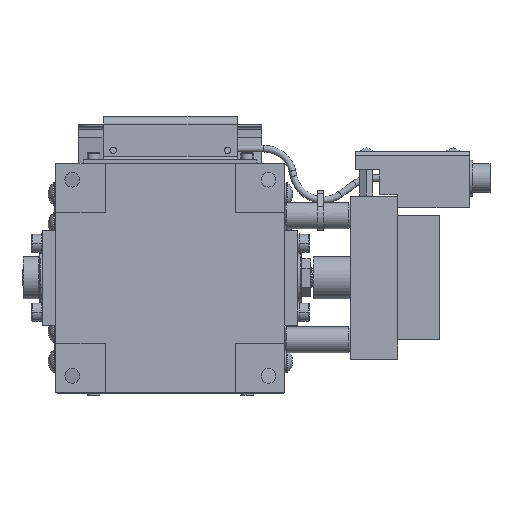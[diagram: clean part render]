
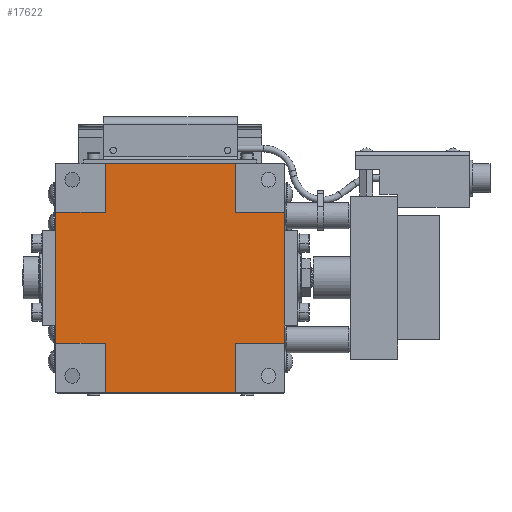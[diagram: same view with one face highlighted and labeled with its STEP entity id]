
A CAD part, front view. The second image highlights one B-rep face of the part: STEP entity #17622.
In plain terms, the highlighted planar face has unit normal (0, -1, 0).
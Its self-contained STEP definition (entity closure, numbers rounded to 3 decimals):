
#521 = AXIS2_PLACEMENT_3D ( 'NONE', #17364, #32119, #11664 ) ;
#616 = VECTOR ( 'NONE', #24910, 1000. ) ;
#703 = EDGE_CURVE ( 'NONE', #23028, #15112, #33004, .T. ) ;
#1456 = CARTESIAN_POINT ( 'NONE',  ( -35., 0.3, 20. ) ) ;
#2079 = ORIENTED_EDGE ( 'NONE', *, *, #22313, .T. ) ;
#2129 = VECTOR ( 'NONE', #24999, 1000. ) ;
#2689 = DIRECTION ( 'NONE',  ( 0., 0., -1. ) ) ;
#2851 = CARTESIAN_POINT ( 'NONE',  ( 20., 0.3, -20. ) ) ;
#2980 = VECTOR ( 'NONE', #8788, 1000. ) ;
#3044 = CARTESIAN_POINT ( 'NONE',  ( -20., 0.3, 20. ) ) ;
#3186 = ORIENTED_EDGE ( 'NONE', *, *, #29172, .T. ) ;
#3345 = CARTESIAN_POINT ( 'NONE',  ( -20., 0.3, 20. ) ) ;
#3568 = ORIENTED_EDGE ( 'NONE', *, *, #703, .T. ) ;
#3866 = DIRECTION ( 'NONE',  ( 1., 0., 0. ) ) ;
#4145 = ORIENTED_EDGE ( 'NONE', *, *, #7848, .T. ) ;
#4366 = CARTESIAN_POINT ( 'NONE',  ( 35., 0.3, 20. ) ) ;
#4445 = CARTESIAN_POINT ( 'NONE',  ( 20., 0.3, -35. ) ) ;
#4475 = CARTESIAN_POINT ( 'NONE',  ( -20., 0.3, -35. ) ) ;
#5139 = ORIENTED_EDGE ( 'NONE', *, *, #29295, .T. ) ;
#5180 = DIRECTION ( 'NONE',  ( 0., 0., 1. ) ) ;
#5891 = ORIENTED_EDGE ( 'NONE', *, *, #12065, .T. ) ;
#6394 = VECTOR ( 'NONE', #12539, 1000. ) ;
#7300 = LINE ( 'NONE', #35682, #6394 ) ;
#7423 = CARTESIAN_POINT ( 'NONE',  ( 35., 0.3, 20. ) ) ;
#7848 = EDGE_CURVE ( 'NONE', #34871, #8144, #22817, .T. ) ;
#8144 = VERTEX_POINT ( 'NONE', #32753 ) ;
#8466 = EDGE_CURVE ( 'NONE', #25946, #11051, #25051, .T. ) ;
#8788 = DIRECTION ( 'NONE',  ( 0., 0., -1. ) ) ;
#10032 = CARTESIAN_POINT ( 'NONE',  ( -35., 0.3, -20. ) ) ;
#10046 = VERTEX_POINT ( 'NONE', #26697 ) ;
#10303 = DIRECTION ( 'NONE',  ( -1., 0., 0. ) ) ;
#10498 = VECTOR ( 'NONE', #22617, 1000. ) ;
#10516 = LINE ( 'NONE', #18805, #17443 ) ;
#10762 = LINE ( 'NONE', #4366, #616 ) ;
#11051 = VERTEX_POINT ( 'NONE', #4475 ) ;
#11664 = DIRECTION ( 'NONE',  ( -1., 0., 0. ) ) ;
#11710 = EDGE_LOOP ( 'NONE', ( #33465, #23134, #13434, #2079, #5139, #36738, #4145, #15280, #5891, #20855, #3186, #3568 ) ) ;
#12021 = EDGE_CURVE ( 'NONE', #12422, #34871, #38199, .T. ) ;
#12065 = EDGE_CURVE ( 'NONE', #26124, #25946, #7300, .T. ) ;
#12322 = LINE ( 'NONE', #25046, #10498 ) ;
#12422 = VERTEX_POINT ( 'NONE', #23170 ) ;
#12539 = DIRECTION ( 'NONE',  ( 1., 0., 0. ) ) ;
#13434 = ORIENTED_EDGE ( 'NONE', *, *, #14826, .T. ) ;
#14826 = EDGE_CURVE ( 'NONE', #15329, #10046, #12322, .T. ) ;
#15112 = VERTEX_POINT ( 'NONE', #2851 ) ;
#15280 = ORIENTED_EDGE ( 'NONE', *, *, #25383, .T. ) ;
#15329 = VERTEX_POINT ( 'NONE', #7423 ) ;
#15623 = LINE ( 'NONE', #22773, #22008 ) ;
#17364 = CARTESIAN_POINT ( 'NONE',  ( 0., 0.3, 0. ) ) ;
#17443 = VECTOR ( 'NONE', #3866, 1000. ) ;
#17622 = ADVANCED_FACE ( 'NONE', ( #17681 ), #26041, .F. ) ;
#17681 = FACE_OUTER_BOUND ( 'NONE', #11710, .T. ) ;
#18805 = CARTESIAN_POINT ( 'NONE',  ( 20., 0.3, -20. ) ) ;
#19137 = CARTESIAN_POINT ( 'NONE',  ( -20., 0.3, -35. ) ) ;
#20855 = ORIENTED_EDGE ( 'NONE', *, *, #8466, .T. ) ;
#21554 = VECTOR ( 'NONE', #2689, 1000. ) ;
#22008 = VECTOR ( 'NONE', #5180, 1000. ) ;
#22173 = DIRECTION ( 'NONE',  ( 0., 0., 1. ) ) ;
#22231 = DIRECTION ( 'NONE',  ( -1., 0., 0. ) ) ;
#22313 = EDGE_CURVE ( 'NONE', #10046, #33692, #15623, .T. ) ;
#22347 = CARTESIAN_POINT ( 'NONE',  ( -20., 0.3, 35. ) ) ;
#22617 = DIRECTION ( 'NONE',  ( -1., 0., 0. ) ) ;
#22695 = EDGE_CURVE ( 'NONE', #15112, #32890, #10516, .T. ) ;
#22773 = CARTESIAN_POINT ( 'NONE',  ( 20., 0.3, 20. ) ) ;
#22817 = LINE ( 'NONE', #1456, #27432 ) ;
#23028 = VERTEX_POINT ( 'NONE', #37564 ) ;
#23134 = ORIENTED_EDGE ( 'NONE', *, *, #31322, .T. ) ;
#23170 = CARTESIAN_POINT ( 'NONE',  ( -20., 0.3, 35. ) ) ;
#23567 = CARTESIAN_POINT ( 'NONE',  ( 20., 0.3, 35. ) ) ;
#24297 = VECTOR ( 'NONE', #22173, 1000. ) ;
#24910 = DIRECTION ( 'NONE',  ( 0., 0., 1. ) ) ;
#24999 = DIRECTION ( 'NONE',  ( 0., 0., -1. ) ) ;
#25046 = CARTESIAN_POINT ( 'NONE',  ( 20., 0.3, 20. ) ) ;
#25051 = LINE ( 'NONE', #19137, #2129 ) ;
#25383 = EDGE_CURVE ( 'NONE', #8144, #26124, #26420, .T. ) ;
#25946 = VERTEX_POINT ( 'NONE', #35371 ) ;
#26041 = PLANE ( 'NONE',  #521 ) ;
#26124 = VERTEX_POINT ( 'NONE', #10032 ) ;
#26420 = LINE ( 'NONE', #37640, #2980 ) ;
#26697 = CARTESIAN_POINT ( 'NONE',  ( 20., 0.3, 20. ) ) ;
#27432 = VECTOR ( 'NONE', #22231, 1000. ) ;
#29172 = EDGE_CURVE ( 'NONE', #11051, #23028, #37639, .T. ) ;
#29284 = LINE ( 'NONE', #22347, #36639 ) ;
#29295 = EDGE_CURVE ( 'NONE', #33692, #12422, #29284, .T. ) ;
#30567 = CARTESIAN_POINT ( 'NONE',  ( -20., 0.3, -35. ) ) ;
#31322 = EDGE_CURVE ( 'NONE', #32890, #15329, #10762, .T. ) ;
#32119 = DIRECTION ( 'NONE',  ( 0., 1., 0. ) ) ;
#32540 = VECTOR ( 'NONE', #33554, 1000. ) ;
#32753 = CARTESIAN_POINT ( 'NONE',  ( -35., 0.3, 20. ) ) ;
#32890 = VERTEX_POINT ( 'NONE', #36522 ) ;
#33004 = LINE ( 'NONE', #4445, #24297 ) ;
#33465 = ORIENTED_EDGE ( 'NONE', *, *, #22695, .T. ) ;
#33554 = DIRECTION ( 'NONE',  ( 1., 0., 0. ) ) ;
#33692 = VERTEX_POINT ( 'NONE', #23567 ) ;
#34871 = VERTEX_POINT ( 'NONE', #3345 ) ;
#35371 = CARTESIAN_POINT ( 'NONE',  ( -20., 0.3, -20. ) ) ;
#35682 = CARTESIAN_POINT ( 'NONE',  ( -35., 0.3, -20. ) ) ;
#36522 = CARTESIAN_POINT ( 'NONE',  ( 35., 0.3, -20. ) ) ;
#36639 = VECTOR ( 'NONE', #10303, 1000. ) ;
#36738 = ORIENTED_EDGE ( 'NONE', *, *, #12021, .T. ) ;
#37564 = CARTESIAN_POINT ( 'NONE',  ( 20., 0.3, -35. ) ) ;
#37639 = LINE ( 'NONE', #30567, #32540 ) ;
#37640 = CARTESIAN_POINT ( 'NONE',  ( -35., 0.3, 20. ) ) ;
#38199 = LINE ( 'NONE', #3044, #21554 ) ;
